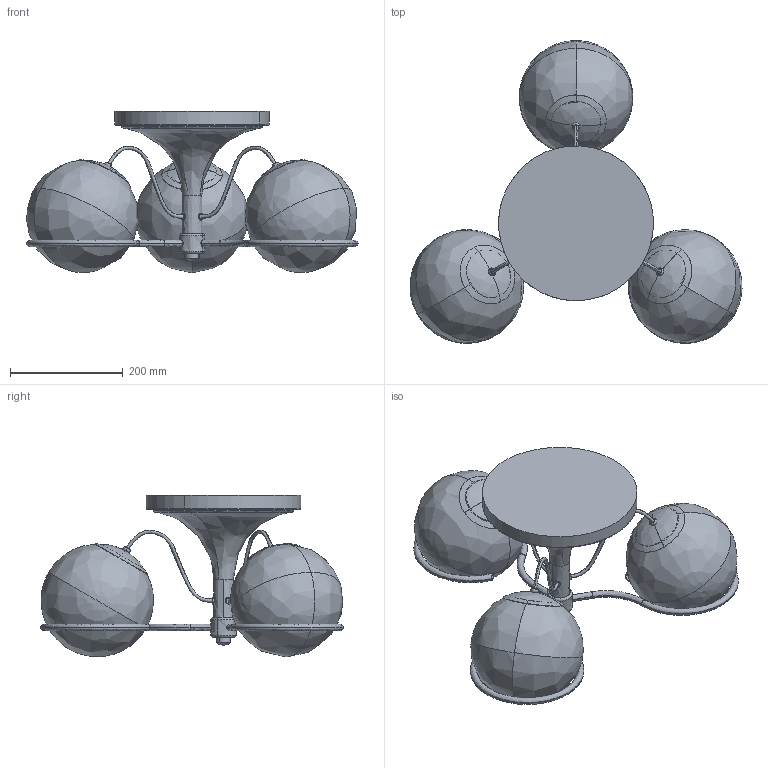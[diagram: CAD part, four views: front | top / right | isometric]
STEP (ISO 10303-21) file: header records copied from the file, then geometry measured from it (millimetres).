
FILE_DESCRIPTION(/* description */ (''),/* implementation_level */ '2;1');
FILE_NAME(/* name */ 'Model 2042:3',/* time_stamp */ '2020-11-11T12:56:10+01:00',/* author */ (''),/* organization */ (''),/* preprocessor_version */ 'ST-DEVELOPER v16.5',/* originating_system */ '',/* authorisation */ '');
FILE_SCHEMA (('AUTOMOTIVE_DESIGN'));
Length unit declared in the file: millimetre
Products named in the file (1): Document
Bounding box: 589.92 x 537.72 x 287.1 mm (x, y, z)
Volume: 4277804.2 mm3; surface area: 1074185.2 mm2
Topology: 13 solids, 13 shells, 168 faces, 371 edges, 211 vertices
Faces by surface type: bspline 143, plane 25
Entity records: 10802 total; most frequent: CARTESIAN_POINT 8787, ORIENTED_EDGE 690, EDGE_CURVE 345, VERTEX_POINT 211, EDGE_LOOP 188, ADVANCED_FACE 168, FACE_OUTER_BOUND 168, B_SPLINE_CURVE_WITH_KNOTS 89
